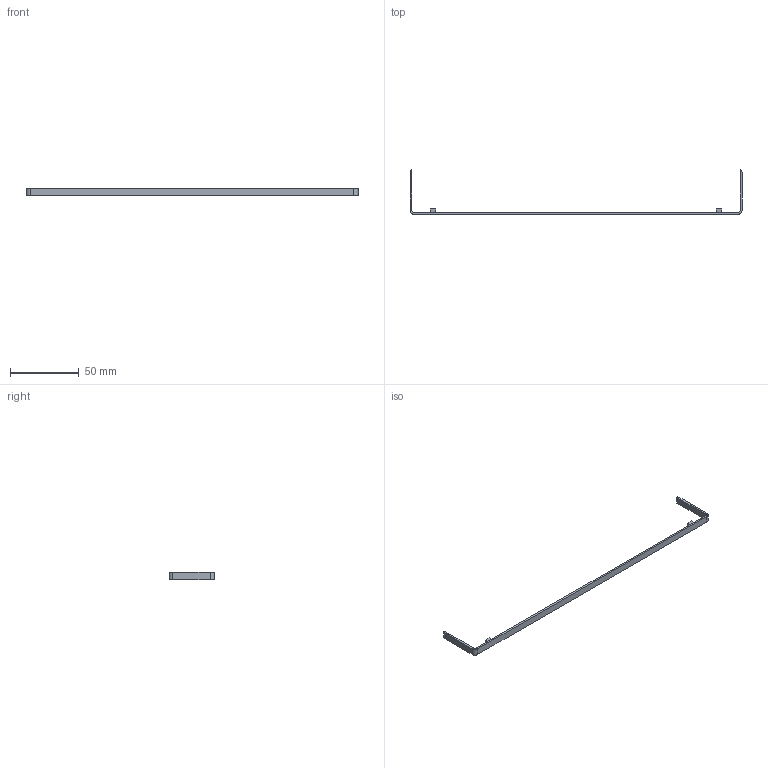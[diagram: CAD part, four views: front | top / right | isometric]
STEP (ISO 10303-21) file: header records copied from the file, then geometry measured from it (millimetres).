
FILE_DESCRIPTION(('Open CASCADE Model'),'2;1');
FILE_NAME('Open CASCADE Shape Model','2026-11-07T14:08:05',('Author'),( 'Open CASCADE'),'Open CASCADE STEP processor 7.9','Open CASCADE 7.9' ,'Unknown');
FILE_SCHEMA(('AUTOMOTIVE_DESIGN { 1 0 10303 214 1 1 1 1 }'));
Length unit declared in the file: millimetre
Products named in the file (1): Open CASCADE STEP translator 7.9 8
Bounding box: 241.2 x 32.6 x 5.1 mm (x, y, z)
Volume: 2252.4 mm3; surface area: 4022.7 mm2
Topology: 1 solids, 1 shells, 26 faces, 66 edges, 44 vertices
Faces by surface type: plane 20, cylinder 6
Entity records: 1618 total; most frequent: CARTESIAN_POINT 337, DIRECTION 216, ORIENTED_EDGE 132, PCURVE 132, DEFINITIONAL_REPRESENTATION 132, LINE 130, VECTOR 130, EDGE_CURVE 66
